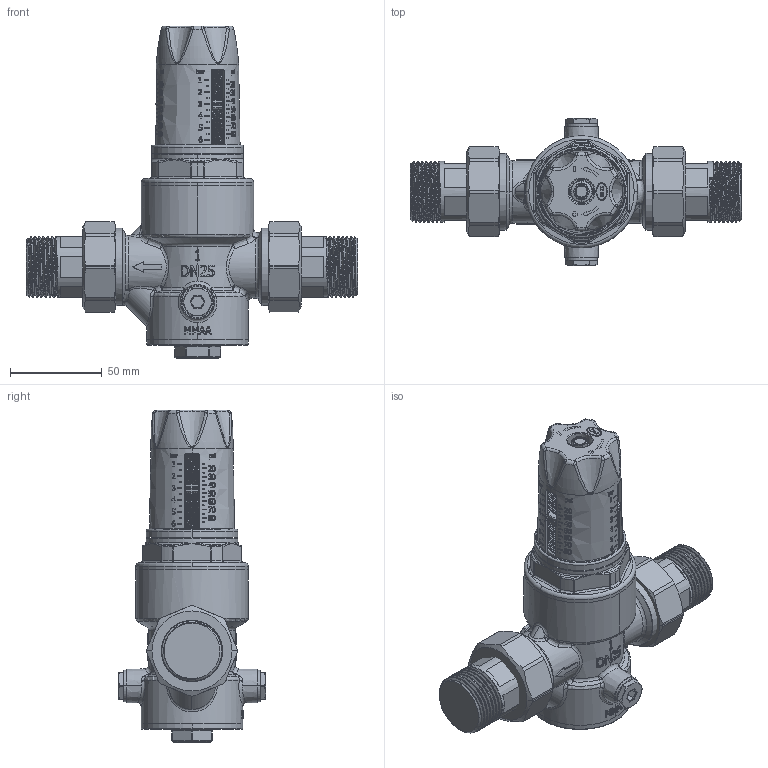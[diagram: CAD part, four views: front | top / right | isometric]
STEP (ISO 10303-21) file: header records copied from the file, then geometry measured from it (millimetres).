
FILE_DESCRIPTION (( 'STEP AP214' ), '1' );
FILE_NAME ('BPR_reduktor_cisnienia_wody_9042300_0_3D_AFRISO.STEP', '2025-04-17T07:15:35', ( '' ), ( '' ), 'SwSTEP 2.0', 'SolidWorks 2024', '' );
FILE_SCHEMA (( 'AUTOMOTIVE_DESIGN' ));
Length unit declared in the file: millimetre
Products named in the file (10): 3494.133.00; BPR_reduktor_cisnienia_wody_9042300_0_3D_AFRISO; 7027.025.00; 7002.025.00; 4401.008.00; 7012.025.00; 3001.425.03; 3301.425.07; 3751.425.00; 5301.427.00
Assembly tree (12 placements, depth 2):
  BPR_reduktor_cisnienia_wody_9042300_0_3D_AFRISO
    3001.425.03
    3301.425.07
    7002.025.00
    7012.025.00
    4401.008.00  x2
    3494.133.00  x2
    7027.025.00
    3751.425.00  x2
    5301.427.00
Bounding box: 180 x 80 x 180.52 mm (x, y, z)
Volume: 569171.4 mm3; surface area: 108982.5 mm2
Topology: 12 solids, 12 shells, 3660 faces, 9439 edges, 5990 vertices
Faces by surface type: bspline 1416, plane 1107, cylinder 458, cone 326, torus 261, sphere 92
Entity records: 428729 total; most frequent: CARTESIAN_POINT 323262, ORIENTED_EDGE 18054, DIRECTION 10586, EDGE_CURVE 9027, VERTEX_POINT 5776, B_SPLINE_CURVE_WITH_KNOTS 3823, EDGE_LOOP 3781, LINE 3670
